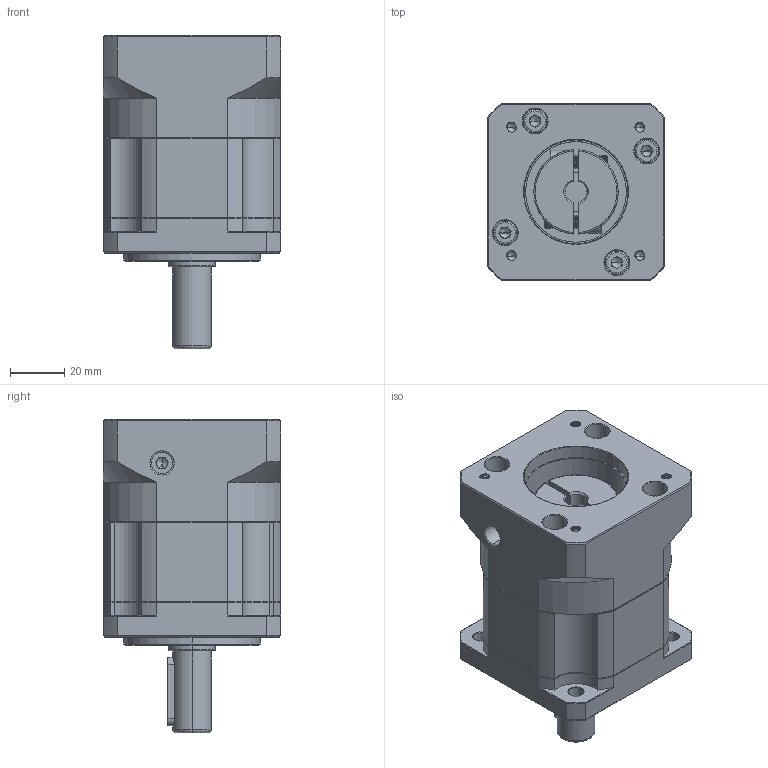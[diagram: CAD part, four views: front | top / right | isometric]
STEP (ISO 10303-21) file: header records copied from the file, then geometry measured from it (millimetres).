
FILE_DESCRIPTION (( 'STEP AP214' ), '1' );
FILE_NAME ('ZB60-D14-L1-8-38.1-47.14X47.14-M4.STEP', '2022-04-16T15:44:09', ( '' ), ( 'Microsoft' ), 'SwSTEP 2.0', 'SolidWorks 2016', '' );
FILE_SCHEMA (( 'AUTOMOTIVE_DESIGN' ));
Length unit declared in the file: millimetre
Products named in the file (1): ZB60-D14-L1-8-38.1-47.14X47.14-M4
Bounding box: 65 x 65 x 115 mm (x, y, z)
Volume: 274139.5 mm3; surface area: 54289.8 mm2
Topology: 6 solids, 6 shells, 1876 faces, 4981 edges, 3188 vertices
Faces by surface type: plane 879, cylinder 381, bspline 299, cone 281, torus 36
Entity records: 98853 total; most frequent: CARTESIAN_POINT 34024, ORIENTED_EDGE 9902, DIRECTION 8109, EDGE_CURVE 4951, VERTEX_POINT 3188, LINE 3011, VECTOR 3011, AXIS2_PLACEMENT_3D 2549
